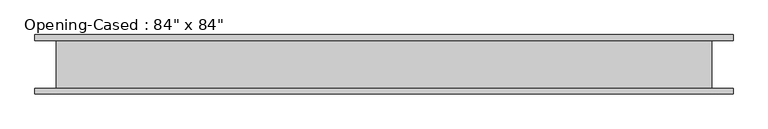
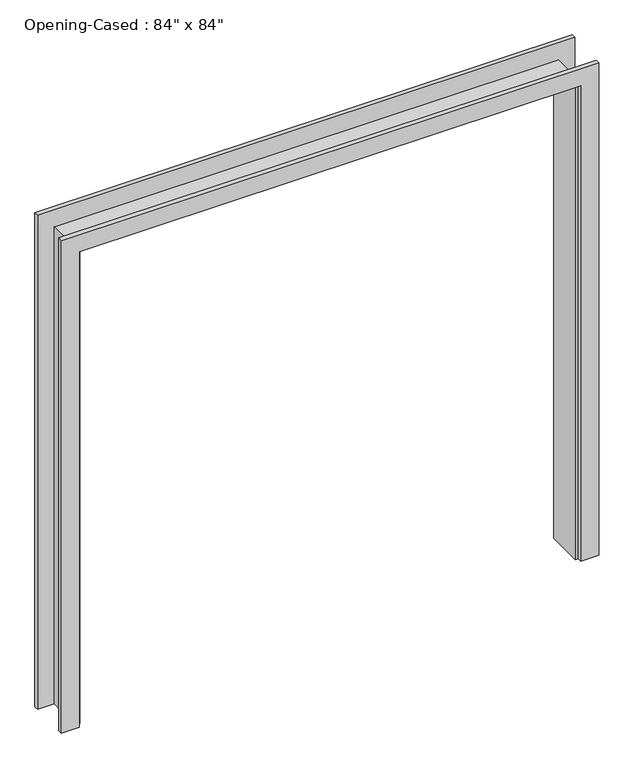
"""IFC4 building model written with IfcOpenShell, lengths in millimetres: proxy geometry."""

from ifc_helpers import new_model, si_unit, frame, origin, place, context, project, spatial, polyline, outline, extrude, faceted_brep, source, transform, mapped, element, save


def proxy_226d7026(model_context):
    return source(origin(), model_context, "Body", "SolidModel", [
        extrude(outline(polyline([(0.0, -1068.6386567), (2127.25, -1068.6386567), (2127.25, 1052.2613433), (0.0, 1052.2613433), (0.0, 1128.4613433), (2203.45, 1128.4613433), (2203.45, -1144.8386567), (0.0, -1144.8386567), (0.0, -1068.6386567)])), frame((0.0, -96.8375, 0.0), z_axis=(0.0, 1.0, 0.0), x_axis=(0.0, 0.0, 1.0)), (0.0, 0.0, 1.0), 19.05),
        extrude(outline(polyline([(0.0, 1128.4613433), (2209.8, 1128.4613433), (2209.8, -1144.8386567), (0.0, -1144.8386567), (0.0, -1068.6386567), (2127.25, -1068.6386567), (2127.25, 1052.2613433), (0.0, 1052.2613433), (0.0, 1128.4613433)])), frame((0.0, 77.7875, 0.0), z_axis=(0.0, 1.0, 0.0), x_axis=(0.0, 0.0, 1.0)), (0.0, 0.0, 1.0), 19.05),
        faceted_brep([(1039.5613433, 77.7875, 0.0), (1058.6113433, 77.7875, 0.0), (1058.6113433, -77.7875, 0.0), (1039.5613433, -77.7875, 0.0), (1039.5613433, 77.7875, 2114.55), (1058.6113433, 77.7875, 2133.6), (1058.6113433, -77.7875, 2133.6), (1039.5613433, -77.7875, 2114.55), (-1055.9386567, 77.7875, 2114.55), (-1074.9886567, 77.7875, 2133.6), (-1074.9886567, -77.7875, 2133.6), (-1055.9386567, -77.7875, 2114.55), (-1055.9386567, 77.7875, 0.0), (-1055.9386567, -77.7875, 0.0), (-1074.9886567, -77.7875, 0.0), (-1074.9886567, 77.7875, 0.0)], [[[0, 1, 2, 3]], [[1, 0, 4, 5]], [[2, 1, 5, 6]], [[3, 2, 6, 7]], [[0, 3, 7, 4]], [[5, 4, 8, 9]], [[6, 5, 9, 10]], [[7, 6, 10, 11]], [[4, 7, 11, 8]], [[12, 13, 14, 15]], [[9, 8, 12, 15]], [[10, 9, 15, 14]], [[11, 10, 14, 13]], [[8, 11, 13, 12]]]),
    ])


if __name__ == "__main__":
    model = new_model("IFC4")
    model_context = context("Model", 3, world=origin())
    ifc_project = project(units=[si_unit("LENGTHUNIT", "METRE", prefix="MILLI")], contexts=[model_context])
    site = spatial("IfcSite", under=ifc_project)
    building = spatial("IfcBuilding", under=site)
    placement = place(None, origin())
    proxy_shape = proxy_226d7026(model_context)
    element("IfcBuildingElementProxy", 1, Name="Opening-Cased : 84\" x 84\"", ObjectType="Opening-Cased : 84\" x 84\"", at=placement, inside=building, context=model_context, shape_type="MappedRepresentation", body=[
        mapped(proxy_shape, transform((0.0, 0.0, 0.0), x_axis=(1.0, 0.0, 0.0), y_axis=(0.0, 1.0, 0.0), z_axis=(0.0, 0.0, 1.0))),
    ])
    save(model, "model.ifc")
